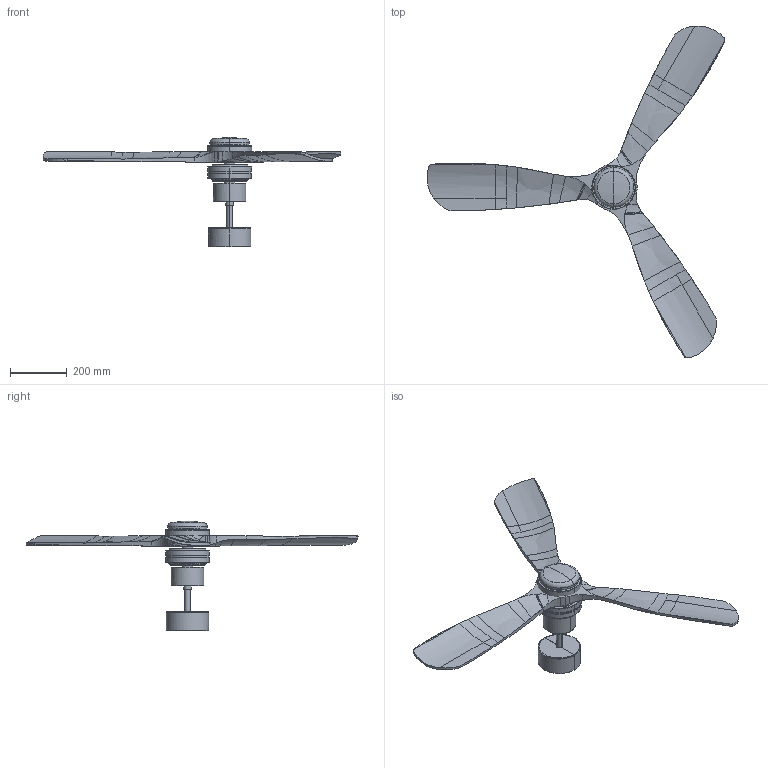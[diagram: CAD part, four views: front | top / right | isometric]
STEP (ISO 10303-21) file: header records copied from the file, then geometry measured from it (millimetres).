
FILE_DESCRIPTION(/* description */ (''),/* implementation_level */ '2;1');
FILE_NAME(/* name */ 'C:\Users\FrancoSartori\Documents\FARO\01_En Proceso\0000_2022\0_LANTAU\03_Publicación\33560DC.stp',/* time_stamp */ '2022-02-04T10:42:10+01:00',/* author */ ('FrancoSartori'),/* organization */ (''),/* preprocessor_version */ 'ST-DEVELOPER v18.1',/* originating_system */ 'AutoCAD Mechanical',/* authorisation */ '');
FILE_SCHEMA (('AUTOMOTIVE_DESIGN { 1 0 10303 214 3 1 1 }'));
Length unit declared in the file: millimetre
Products named in the file (3): Product; 33370_33373_33516_33518_LANTAU - LANTAU-458446-_3D_; 33370_33373_33516_33518_LANTAU_lamp - LANTAU-458445-_3D_
Assembly tree (2 placements, depth 2):
  Product
    33370_33373_33516_33518_LANTAU - LANTAU-458446-_3D_
    33370_33373_33516_33518_LANTAU_lamp - LANTAU-458445-_3D_
Bounding box: 1053.46 x 1173.98 x 386.12 mm (x, y, z)
Volume: 3626578.2 mm3; surface area: 1095867.6 mm2
Topology: 11 solids, 11 shells, 473 faces, 1280 edges, 822 vertices
Faces by surface type: cylinder 169, plane 141, torus 74, bspline 69, cone 16, sphere 4
Entity records: 22596 total; most frequent: CARTESIAN_POINT 11735, ORIENTED_EDGE 2548, DIRECTION 1766, EDGE_CURVE 1274, VERTEX_POINT 817, AXIS2_PLACEMENT_3D 692, B_SPLINE_CURVE_WITH_KNOTS 612, EDGE_LOOP 515
